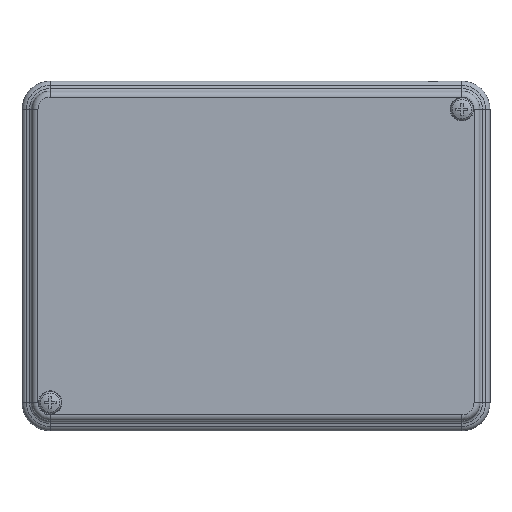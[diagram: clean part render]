
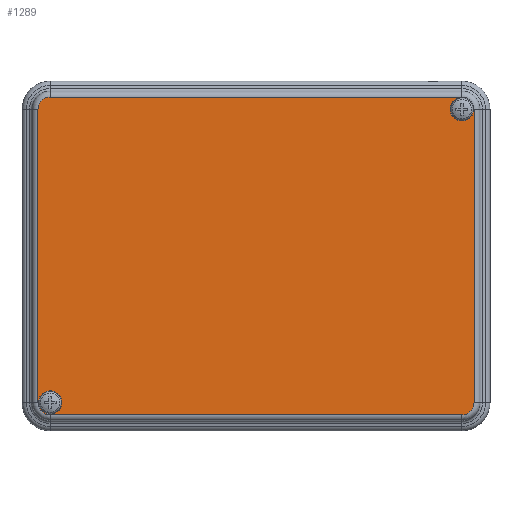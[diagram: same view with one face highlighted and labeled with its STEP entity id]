
A CAD part, top view. The second image highlights one B-rep face of the part: STEP entity #1289.
In plain terms, the highlighted planar face has unit normal (0, 0, 1).
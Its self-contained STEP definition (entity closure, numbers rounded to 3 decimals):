
#407=PLANE('',#4069);
#692=LINE('',#6080,#951);
#693=LINE('',#6099,#952);
#694=LINE('',#6106,#953);
#695=LINE('',#6113,#954);
#951=VECTOR('',#4990,1.);
#952=VECTOR('',#5015,1.);
#953=VECTOR('',#5026,1.);
#954=VECTOR('',#5037,1.);
#1289=ADVANCED_FACE('',(#1376,#1377,#1378),#407,.F.);
#1376=FACE_BOUND('',#1579,.T.);
#1377=FACE_BOUND('',#1580,.T.);
#1378=FACE_BOUND('',#1581,.T.);
#1579=EDGE_LOOP('',(#2415));
#1580=EDGE_LOOP('',(#2416,#2417,#2418,#2419,#2420,#2421,#2422,#2423));
#1581=EDGE_LOOP('',(#2424));
#2415=ORIENTED_EDGE('',*,*,#3339,.F.);
#2416=ORIENTED_EDGE('',*,*,#3353,.T.);
#2417=ORIENTED_EDGE('',*,*,#3364,.T.);
#2418=ORIENTED_EDGE('',*,*,#3367,.T.);
#2419=ORIENTED_EDGE('',*,*,#3356,.T.);
#2420=ORIENTED_EDGE('',*,*,#3363,.T.);
#2421=ORIENTED_EDGE('',*,*,#3362,.T.);
#2422=ORIENTED_EDGE('',*,*,#3371,.T.);
#2423=ORIENTED_EDGE('',*,*,#3370,.T.);
#2424=ORIENTED_EDGE('',*,*,#3341,.F.);
#2827=VERTEX_POINT('',#6054);
#2829=VERTEX_POINT('',#6059);
#2830=VERTEX_POINT('',#6081);
#2831=VERTEX_POINT('',#6082);
#2832=VERTEX_POINT('',#6087);
#2833=VERTEX_POINT('',#6088);
#2834=VERTEX_POINT('',#6093);
#2835=VERTEX_POINT('',#6096);
#2836=VERTEX_POINT('',#6102);
#2837=VERTEX_POINT('',#6109);
#3339=EDGE_CURVE('',#2827,#2827,#3637,.T.);
#3341=EDGE_CURVE('',#2829,#2829,#3639,.T.);
#3353=EDGE_CURVE('',#2830,#2831,#692,.T.);
#3356=EDGE_CURVE('',#2832,#2833,#3653,.T.);
#3362=EDGE_CURVE('',#2834,#2835,#3659,.T.);
#3363=EDGE_CURVE('',#2833,#2834,#693,.T.);
#3364=EDGE_CURVE('',#2831,#2836,#3660,.T.);
#3367=EDGE_CURVE('',#2836,#2832,#694,.T.);
#3370=EDGE_CURVE('',#2837,#2830,#3665,.T.);
#3371=EDGE_CURVE('',#2835,#2837,#695,.T.);
#3637=CIRCLE('',#3994,3.979);
#3639=CIRCLE('',#3997,3.979);
#3653=CIRCLE('',#4021,4.1);
#3659=CIRCLE('',#4028,4.1);
#3660=CIRCLE('',#4031,4.1);
#3665=CIRCLE('',#4038,4.1);
#3994=AXIS2_PLACEMENT_3D('',#6053,#4942,#4943);
#3997=AXIS2_PLACEMENT_3D('',#6058,#4948,#4949);
#4021=AXIS2_PLACEMENT_3D('',#6086,#4997,#4998);
#4028=AXIS2_PLACEMENT_3D('',#6097,#5011,#5012);
#4031=AXIS2_PLACEMENT_3D('',#6101,#5018,#5019);
#4038=AXIS2_PLACEMENT_3D('',#6111,#5033,#5034);
#4069=AXIS2_PLACEMENT_3D('',#6156,#5104,#5105);
#4942=DIRECTION('',(0.,0.,1.));
#4943=DIRECTION('',(1.,0.,0.));
#4948=DIRECTION('',(0.,0.,1.));
#4949=DIRECTION('',(1.,0.,0.));
#4990=DIRECTION('',(-1.,0.,0.));
#4997=DIRECTION('',(0.,0.,1.));
#4998=DIRECTION('',(1.,0.,0.));
#5011=DIRECTION('',(0.,0.,1.));
#5012=DIRECTION('',(1.,0.,0.));
#5015=DIRECTION('',(1.,0.,0.));
#5018=DIRECTION('',(0.,0.,1.));
#5019=DIRECTION('',(1.,0.,0.));
#5026=DIRECTION('',(0.,-1.,0.));
#5033=DIRECTION('',(0.,0.,1.));
#5034=DIRECTION('',(1.,0.,0.));
#5037=DIRECTION('',(0.,1.,0.));
#5104=DIRECTION('',(0.,0.,-1.));
#5105=DIRECTION('',(1.,0.,0.));
#6053=CARTESIAN_POINT('',(69.6,49.6,74.3));
#6054=CARTESIAN_POINT('',(73.579,49.6,74.3));
#6058=CARTESIAN_POINT('',(-69.6,-49.6,74.3));
#6059=CARTESIAN_POINT('',(-65.621,-49.6,74.3));
#6080=CARTESIAN_POINT('',(-69.6,53.7,74.3));
#6081=CARTESIAN_POINT('',(69.6,53.7,74.3));
#6082=CARTESIAN_POINT('',(-69.6,53.7,74.3));
#6086=CARTESIAN_POINT('',(-69.6,-49.6,74.3));
#6087=CARTESIAN_POINT('',(-73.7,-49.6,74.3));
#6088=CARTESIAN_POINT('',(-69.6,-53.7,74.3));
#6093=CARTESIAN_POINT('',(69.6,-53.7,74.3));
#6096=CARTESIAN_POINT('',(73.7,-49.6,74.3));
#6097=CARTESIAN_POINT('',(69.6,-49.6,74.3));
#6099=CARTESIAN_POINT('',(69.6,-53.7,74.3));
#6101=CARTESIAN_POINT('',(-69.6,49.6,74.3));
#6102=CARTESIAN_POINT('',(-73.7,49.6,74.3));
#6106=CARTESIAN_POINT('',(-73.7,-49.6,74.3));
#6109=CARTESIAN_POINT('',(73.7,49.6,74.3));
#6111=CARTESIAN_POINT('',(69.6,49.6,74.3));
#6113=CARTESIAN_POINT('',(73.7,49.6,74.3));
#6156=CARTESIAN_POINT('',(-69.6,49.6,74.3));
